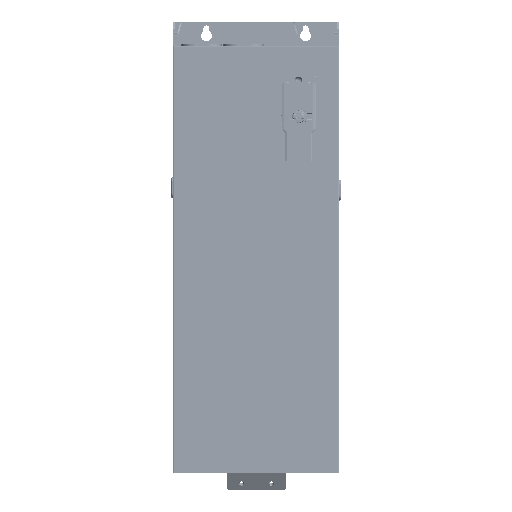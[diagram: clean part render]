
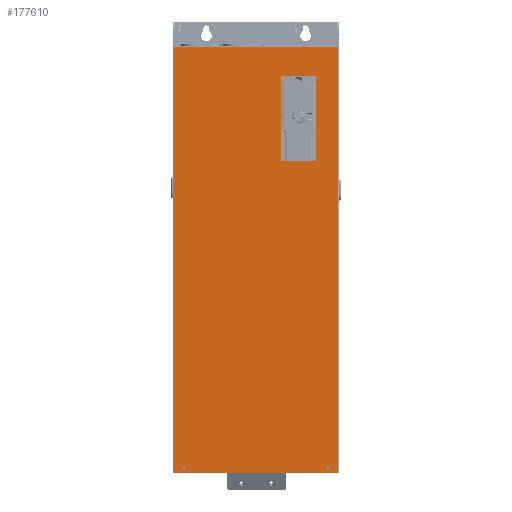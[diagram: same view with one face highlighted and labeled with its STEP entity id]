
A CAD part, front view. The second image highlights one B-rep face of the part: STEP entity #177610.
In plain terms, the highlighted planar face has unit normal (0, -1, 0) as drawn and (0, 1, 0) by its records, which use the part's own axes.
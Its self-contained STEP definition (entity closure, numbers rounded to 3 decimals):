
#176901=DIRECTION('',(-1.,0.,0.));
#176902=VECTOR('',#176901,331.6);
#176903=CARTESIAN_POINT('',(165.8,0.,431.));
#176904=LINE('',#176903,#176902);
#176905=DIRECTION('',(0.,0.,-1.));
#176906=VECTOR('',#176905,168.5);
#176907=CARTESIAN_POINT('',(121.,0.,-200.5));
#176908=LINE('',#176907,#176906);
#176909=CARTESIAN_POINT('',(119.5,0.,-369.));
#176910=DIRECTION('',(0.,1.,0.));
#176911=DIRECTION('',(1.,0.,0.));
#176912=AXIS2_PLACEMENT_3D('',#176909,#176910,#176911);
#176914=DIRECTION('',(-1.,0.,0.));
#176915=VECTOR('',#176914,67.);
#176916=CARTESIAN_POINT('',(119.5,0.,-370.5));
#176917=LINE('',#176916,#176915);
#176918=CARTESIAN_POINT('',(52.5,0.,-369.));
#176919=DIRECTION('',(0.,1.,0.));
#176920=DIRECTION('',(0.,0.,-1.));
#176921=AXIS2_PLACEMENT_3D('',#176918,#176919,#176920);
#176923=DIRECTION('',(0.,0.,1.));
#176924=VECTOR('',#176923,168.5);
#176925=CARTESIAN_POINT('',(51.,0.,-369.));
#176926=LINE('',#176925,#176924);
#176927=CARTESIAN_POINT('',(52.5,0.,-200.5));
#176928=DIRECTION('',(0.,1.,0.));
#176929=DIRECTION('',(-1.,0.,0.));
#176930=AXIS2_PLACEMENT_3D('',#176927,#176928,#176929);
#176932=DIRECTION('',(1.,0.,0.));
#176933=VECTOR('',#176932,67.);
#176934=CARTESIAN_POINT('',(52.5,0.,-199.));
#176935=LINE('',#176934,#176933);
#176936=CARTESIAN_POINT('',(119.5,0.,-200.5));
#176937=DIRECTION('',(0.,1.,0.));
#176938=DIRECTION('',(0.,0.,1.));
#176939=AXIS2_PLACEMENT_3D('',#176936,#176937,#176938);
#176941=CARTESIAN_POINT('',(-145.,0.,421.));
#176942=DIRECTION('',(0.,1.,0.));
#176943=DIRECTION('',(-1.,0.,0.));
#176944=AXIS2_PLACEMENT_3D('',#176941,#176942,#176943);
#176946=CARTESIAN_POINT('',(-145.,0.,421.));
#176947=DIRECTION('',(0.,1.,0.));
#176948=DIRECTION('',(1.,0.,0.));
#176949=AXIS2_PLACEMENT_3D('',#176946,#176947,#176948);
#176951=CARTESIAN_POINT('',(145.,0.,421.));
#176952=DIRECTION('',(0.,1.,0.));
#176953=DIRECTION('',(-1.,0.,0.));
#176954=AXIS2_PLACEMENT_3D('',#176951,#176952,#176953);
#176956=CARTESIAN_POINT('',(145.,0.,421.));
#176957=DIRECTION('',(0.,1.,0.));
#176958=DIRECTION('',(1.,0.,0.));
#176959=AXIS2_PLACEMENT_3D('',#176956,#176957,#176958);
#176969=DIRECTION('',(0.,0.,1.));
#176970=VECTOR('',#176969,860.3);
#176971=CARTESIAN_POINT('',(-165.8,0.,-429.3));
#176972=LINE('',#176971,#176970);
#177013=DIRECTION('',(0.,0.,-1.));
#177014=VECTOR('',#177013,860.3);
#177015=CARTESIAN_POINT('',(165.8,0.,431.));
#177016=LINE('',#177015,#177014);
#177094=DIRECTION('',(-1.,0.,0.));
#177095=VECTOR('',#177094,331.6);
#177096=CARTESIAN_POINT('',(165.8,0.,-429.3));
#177097=LINE('',#177096,#177095);
#177421=CARTESIAN_POINT('',(-165.8,0.,-429.3));
#177422=CARTESIAN_POINT('',(-165.8,0.,431.));
#177423=VERTEX_POINT('',#177421);
#177424=VERTEX_POINT('',#177422);
#177425=CARTESIAN_POINT('',(165.8,0.,-429.3));
#177426=VERTEX_POINT('',#177425);
#177427=CARTESIAN_POINT('',(165.8,0.,431.));
#177428=VERTEX_POINT('',#177427);
#177429=CARTESIAN_POINT('',(121.,0.,-200.5));
#177430=CARTESIAN_POINT('',(121.,0.,-369.));
#177431=VERTEX_POINT('',#177429);
#177432=VERTEX_POINT('',#177430);
#177433=CARTESIAN_POINT('',(119.5,0.,-370.5));
#177434=VERTEX_POINT('',#177433);
#177435=CARTESIAN_POINT('',(52.5,0.,-370.5));
#177436=VERTEX_POINT('',#177435);
#177437=CARTESIAN_POINT('',(51.,0.,-369.));
#177438=VERTEX_POINT('',#177437);
#177439=CARTESIAN_POINT('',(51.,0.,-200.5));
#177440=VERTEX_POINT('',#177439);
#177441=CARTESIAN_POINT('',(52.5,0.,-199.));
#177442=VERTEX_POINT('',#177441);
#177443=CARTESIAN_POINT('',(119.5,0.,-199.));
#177444=VERTEX_POINT('',#177443);
#177445=CARTESIAN_POINT('',(-147.5,0.,421.));
#177446=CARTESIAN_POINT('',(-142.5,0.,421.));
#177447=VERTEX_POINT('',#177445);
#177448=VERTEX_POINT('',#177446);
#177449=CARTESIAN_POINT('',(142.5,0.,421.));
#177450=CARTESIAN_POINT('',(147.5,0.,421.));
#177451=VERTEX_POINT('',#177449);
#177452=VERTEX_POINT('',#177450);
#177565=CARTESIAN_POINT('',(0.,0.,0.));
#177566=DIRECTION('',(0.,1.,0.));
#177567=DIRECTION('',(1.,0.,0.));
#177568=AXIS2_PLACEMENT_3D('',#177565,#177566,#177567);
#177569=PLANE('',#177568);
#177571=ORIENTED_EDGE('',*,*,#177570,.F.);
#177573=ORIENTED_EDGE('',*,*,#177572,.F.);
#177575=ORIENTED_EDGE('',*,*,#177574,.F.);
#177577=ORIENTED_EDGE('',*,*,#177576,.T.);
#177578=EDGE_LOOP('',(#177571,#177573,#177575,#177577));
#177579=FACE_OUTER_BOUND('',#177578,.F.);
#177581=ORIENTED_EDGE('',*,*,#177580,.T.);
#177583=ORIENTED_EDGE('',*,*,#177582,.T.);
#177585=ORIENTED_EDGE('',*,*,#177584,.T.);
#177587=ORIENTED_EDGE('',*,*,#177586,.T.);
#177589=ORIENTED_EDGE('',*,*,#177588,.T.);
#177591=ORIENTED_EDGE('',*,*,#177590,.T.);
#177593=ORIENTED_EDGE('',*,*,#177592,.T.);
#177595=ORIENTED_EDGE('',*,*,#177594,.T.);
#177596=EDGE_LOOP('',(#177581,#177583,#177585,#177587,#177589,#177591,#177593,
#177595));
#177597=FACE_BOUND('',#177596,.F.);
#177599=ORIENTED_EDGE('',*,*,#177598,.T.);
#177601=ORIENTED_EDGE('',*,*,#177600,.T.);
#177602=EDGE_LOOP('',(#177599,#177601));
#177603=FACE_BOUND('',#177602,.F.);
#177605=ORIENTED_EDGE('',*,*,#177604,.T.);
#177607=ORIENTED_EDGE('',*,*,#177606,.T.);
#177608=EDGE_LOOP('',(#177605,#177607));
#177609=FACE_BOUND('',#177608,.F.);
#176913=CIRCLE('',#176912,1.5);
#176922=CIRCLE('',#176921,1.5);
#176931=CIRCLE('',#176930,1.5);
#176940=CIRCLE('',#176939,1.5);
#176945=CIRCLE('',#176944,2.5);
#176950=CIRCLE('',#176949,2.5);
#176955=CIRCLE('',#176954,2.5);
#176960=CIRCLE('',#176959,2.5);
#177570=EDGE_CURVE('',#177423,#177424,#176972,.T.);
#177572=EDGE_CURVE('',#177426,#177423,#177097,.T.);
#177574=EDGE_CURVE('',#177428,#177426,#177016,.T.);
#177576=EDGE_CURVE('',#177428,#177424,#176904,.T.);
#177580=EDGE_CURVE('',#177431,#177432,#176908,.T.);
#177582=EDGE_CURVE('',#177432,#177434,#176913,.T.);
#177584=EDGE_CURVE('',#177434,#177436,#176917,.T.);
#177586=EDGE_CURVE('',#177436,#177438,#176922,.T.);
#177588=EDGE_CURVE('',#177438,#177440,#176926,.T.);
#177590=EDGE_CURVE('',#177440,#177442,#176931,.T.);
#177592=EDGE_CURVE('',#177442,#177444,#176935,.T.);
#177594=EDGE_CURVE('',#177444,#177431,#176940,.T.);
#177598=EDGE_CURVE('',#177447,#177448,#176945,.T.);
#177600=EDGE_CURVE('',#177448,#177447,#176950,.T.);
#177604=EDGE_CURVE('',#177451,#177452,#176955,.T.);
#177606=EDGE_CURVE('',#177452,#177451,#176960,.T.);
#177610=ADVANCED_FACE('',(#177579,#177597,#177603,#177609),#177569,.T.);
